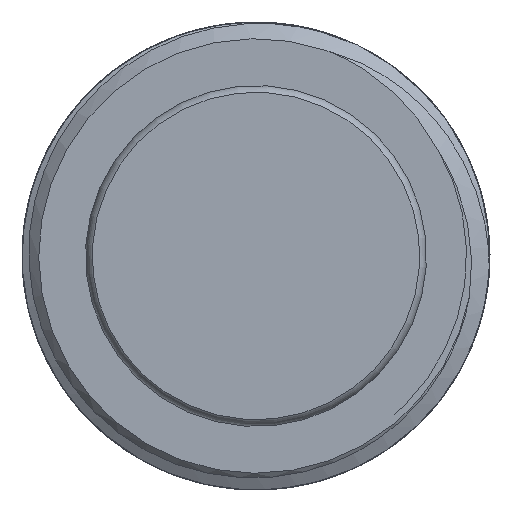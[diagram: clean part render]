
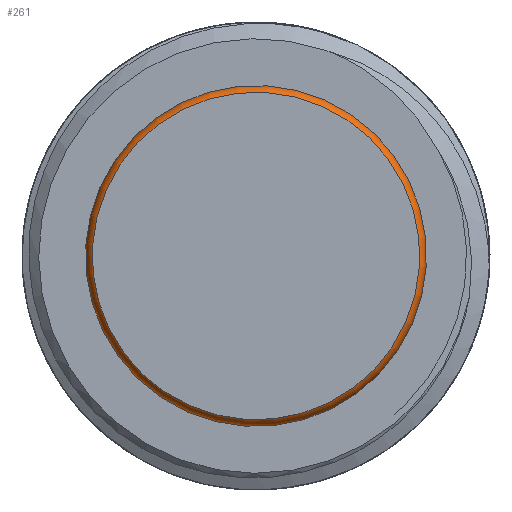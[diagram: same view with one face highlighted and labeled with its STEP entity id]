
A CAD part, front view. The second image highlights one B-rep face of the part: STEP entity #261.
In plain terms, the highlighted toroidal (fillet/blend) face has major radius 4.6 mm and minor radius 0.5 mm.
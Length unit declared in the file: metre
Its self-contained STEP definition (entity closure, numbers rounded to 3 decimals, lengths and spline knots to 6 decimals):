
#261 = ADVANCED_FACE( '', ( #418, #419 ), #420, .T. );
#418 = FACE_OUTER_BOUND( '', #38281, .T. );
#419 = FACE_OUTER_BOUND( '', #38282, .T. );
#420 = TOROIDAL_SURFACE( '', #38283, 0.0046, 0.0005 );
#38281 = EDGE_LOOP( '', ( #38604 ) );
#38282 = EDGE_LOOP( '', ( #38605 ) );
#38283 = AXIS2_PLACEMENT_3D( '', #38606, #38607, #38608 );
#38604 = ORIENTED_EDGE( '', *, *, #38847, .T. );
#38605 = ORIENTED_EDGE( '', *, *, #38848, .T. );
#38606 = CARTESIAN_POINT( '', ( 0., -0.023159, 0. ) );
#38607 = DIRECTION( '', ( 0., 1., 0. ) );
#38608 = DIRECTION( '', ( 0.897, 0., 0.442 ) );
#38847 = EDGE_CURVE( '', #39281, #39281, #39282, .F. );
#38848 = EDGE_CURVE( '', #39283, #39283, #39284, .F. );
#39281 = VERTEX_POINT( '', #41475 );
#39282 = CIRCLE( '', #41476, 0.00446 );
#39283 = VERTEX_POINT( '', #41477 );
#39284 = CIRCLE( '', #41478, 0.00474 );
#41475 = CARTESIAN_POINT( '', ( 0.001973, -0.022679, -0.004 ) );
#41476 = AXIS2_PLACEMENT_3D( '', #41605, #41606, #41607 );
#41477 = CARTESIAN_POINT( '', ( -0.002097, -0.022679, 0.004251 ) );
#41478 = AXIS2_PLACEMENT_3D( '', #41608, #41609, #41610 );
#41605 = CARTESIAN_POINT( '', ( 0., -0.022679, 0. ) );
#41606 = DIRECTION( '', ( 0., -1., 0. ) );
#41607 = DIRECTION( '', ( 0.442, 0., -0.897 ) );
#41608 = CARTESIAN_POINT( '', ( 0., -0.022679, 0. ) );
#41609 = DIRECTION( '', ( 0., 1., 0. ) );
#41610 = DIRECTION( '', ( -0.442, 0., 0.897 ) );
